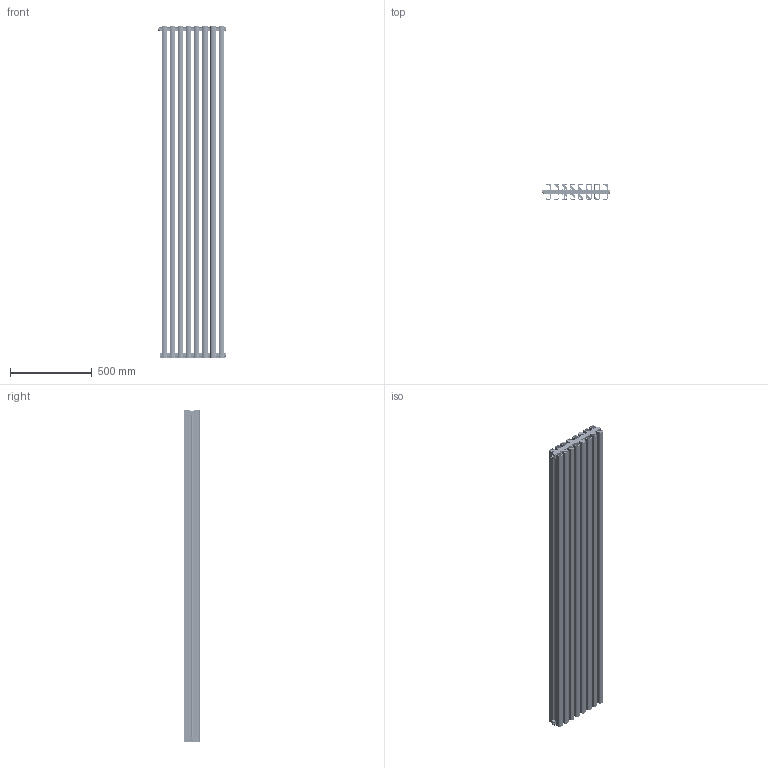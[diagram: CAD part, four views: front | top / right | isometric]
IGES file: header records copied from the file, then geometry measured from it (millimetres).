
Start section: SolidWorks IGES file using analytic representation for surfaces
Global section: file name: S:\RicercaSviluppo\01_DISEGNI\2_DISEGNI\02_ELEMENTI\39_TONALE\39_99_RICHIESTE CLIENTI\39_99_DRL\22-07-24\TONALE 2000_8.IGS; native system: SolidWorks 2024; preprocessor: SolidWorks 2024; author: massimo; date: 240722.104030; units: millimetre
Bounding box: 416.3 x 95 x 2037 mm (x, y, z)
Surface area: 11767955.8 mm2 (no closed solid volume)
Topology: 0 solids, 0 shells, 4808 faces, 58647 edges, 58551 vertices
Faces by surface type: revolution 2472, bspline 2336
